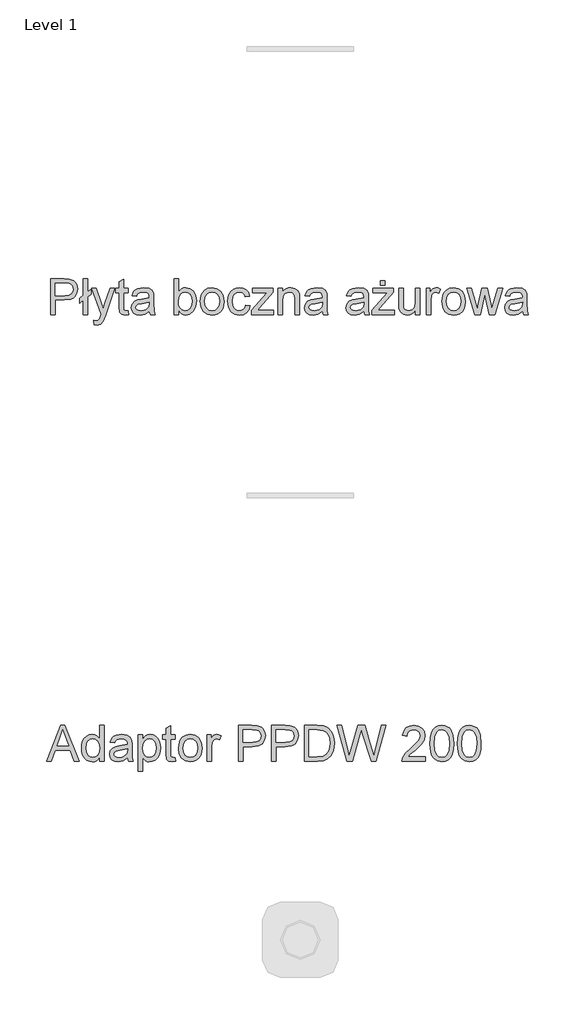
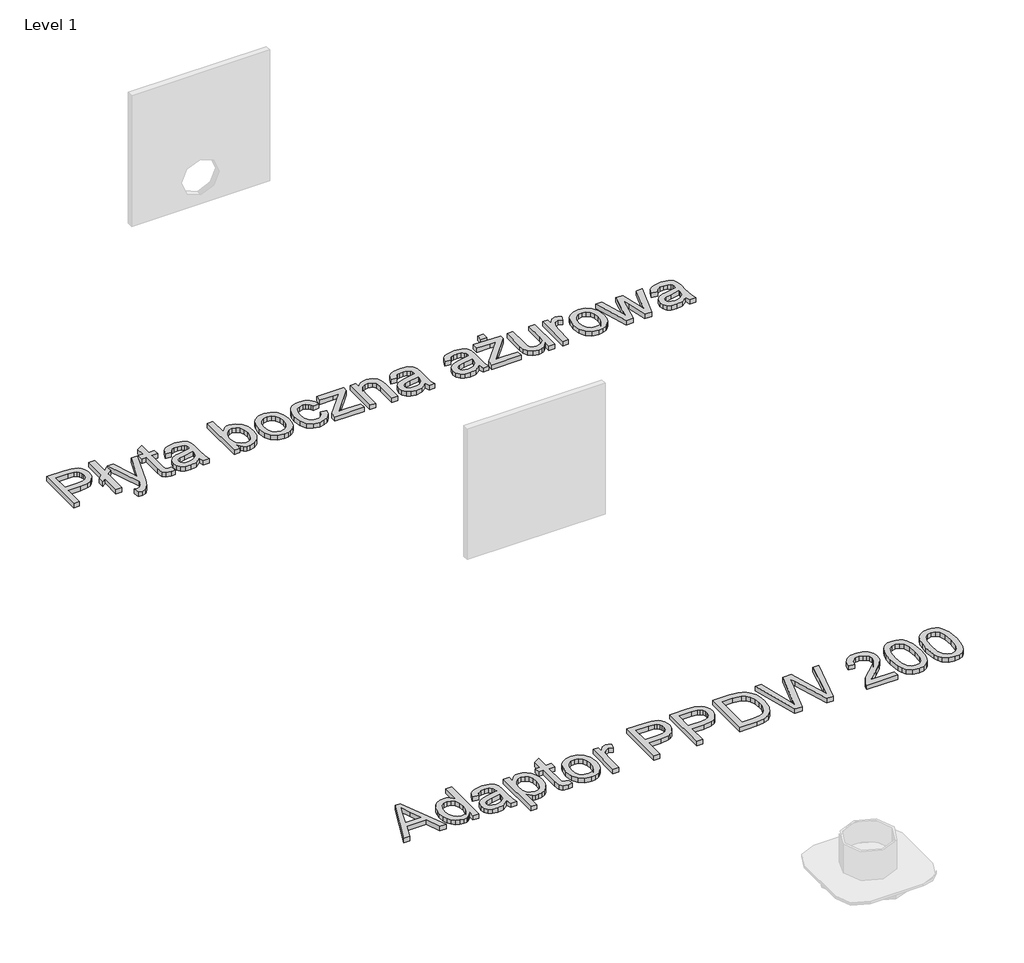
# One storey, part 3 of 5: 2 proxies.
"""IFC4 building model written with IfcOpenShell, lengths in millimetres."""

from ifc_helpers import new_model, si_unit, origin, origin_with_axes, place, context, project, spatial, polyline, outline, extrude, element, save

model = new_model("IFC4")

# Units and contexts
model_context = context("Model", 3, world=origin())
ifc_project = project(units=[si_unit("LENGTHUNIT", "METRE", prefix="MILLI")], contexts=[model_context])

# Site, building, storey
site = spatial("IfcSite", under=ifc_project)
building = spatial("IfcBuilding", under=site)
storey = spatial("IfcBuildingStorey", under=building, Name="Level 1", Elevation=0.0)

# Proxies
placement = place(None, origin())
element("IfcBuildingElementProxy", 1, Name="200mm Arial", ObjectType="200mm Arial", at=placement, inside=storey, context=model_context, shape_type="SweptSolid", body=[
    extrude(outline(polyline([(-12330.6923074, -9113.949573), (-12330.6923074, -8913.0369527), (-12256.2329915, -8913.0369527), (-12226.2138207, -8914.949939), (-12201.8109817, -8924.3431926), (-12192.9388943, -8932.6695885), (-12185.9920559, -8943.767362), (-12181.5038956, -8956.8578296), (-12180.0078421, -8971.1623079), (-12184.0484127, -8994.8416456), (-12196.1701245, -9014.5723833), (-12205.8776106, -9022.3408248), (-12218.8377867, -9027.8897115), (-12254.5162089, -9032.328821), (-12305.5782298, -9032.328821), (-12305.5782298, -9113.949573), (-12330.6923074, -9113.949573)]), holes=[polyline([(-12305.5782298, -9007.2147434), (-12253.0446809, -9007.2147434), (-12230.7755575, -9004.9093496), (-12216.0602777, -8997.9931681), (-12207.8565092, -8986.8953946), (-12205.1219197, -8972.0452247), (-12206.7344691, -8960.7635102), (-12211.5721173, -8951.2476292), (-12219.0339905, -8944.086193), (-12228.5192146, -8939.8678128), (-12253.6332921, -8938.1510302), (-12305.5782298, -8938.1510302), (-12305.5782298, -9007.2147434)])]), origin_with_axes(), (0.0, 0.0, 1.0), 20.0),
    extrude(outline(polyline([(-12148.6152452, -9034.5361129), (-12167.4508034, -9049.5947493), (-12167.4508034, -9021.341412), (-12148.6152452, -9006.2827757), (-12148.6152452, -8913.0369527), (-12123.5011677, -8913.0369527), (-12123.5011677, -8986.1718933), (-12104.6656095, -8971.113257), (-12104.6656095, -8999.3665942), (-12123.5011677, -9014.4252305), (-12123.5011677, -9113.949573), (-12148.6152452, -9113.949573), (-12148.6152452, -9034.5361129)])), origin_with_axes(), (0.0, 0.0, 1.0), 20.0),
    extrude(outline(polyline([(-12085.8300514, -9170.4562474), (-12088.9693111, -9146.2741376), (-12076.2160686, -9148.4814296), (-12064.2966919, -9145.7100519), (-12056.988103, -9137.98453), (-12050.1209724, -9119.4923283), (-12048.1589351, -9113.4100127), (-12101.5263498, -8966.4043674), (-12075.0388462, -8966.4043674), (-12046.736458, -9048.319425), (-12036.8772206, -9081.0854481), (-12027.0179831, -9052.1453978), (-11997.93078, -8966.4043674), (-11971.6394801, -8966.4043674), (-12022.9958066, -9117.4812401), (-12036.3376603, -9150.2472631), (-12050.9057873, -9167.9546498), (-12070.4771094, -9173.5955071), (-12085.8300514, -9170.4562474)])), origin_with_axes(), (0.0, 0.0, 1.0), 20.0),
    extrude(outline(polyline([(-11897.4744699, -9093.0048247), (-11894.3352102, -9114.6853369), (-11913.1217174, -9117.0888326), (-11934.1645675, -9112.9195034), (-11944.6614671, -9101.9811454), (-11947.7026249, -9073.4825535), (-11947.7026249, -8991.518445), (-11966.5381831, -8991.518445), (-11966.5381831, -8966.4043674), (-11947.7026249, -8966.4043674), (-11947.7026249, -8930.5481356), (-11922.5885474, -8915.7838049), (-11922.5885474, -8966.4043674), (-11897.4744699, -8966.4043674), (-11897.4744699, -8991.518445), (-11922.5885474, -8991.518445), (-11922.5885474, -9072.7467895), (-11921.2641722, -9085.6962357), (-11916.9722156, -9090.2824979), (-11908.4128278, -9091.9747551), (-11897.4744699, -9093.0048247)])), origin_with_axes(), (0.0, 0.0, 1.0), 20.0),
    extrude(outline(polyline([(-11778.1826015, -9095.1140148), (-11802.5363896, -9112.1346884), (-11829.4408262, -9117.0888326), (-11850.428494, -9114.1089885), (-11865.9101947, -9105.169456), (-11875.4567324, -9091.5946104), (-11878.6389117, -9074.7088268), (-11873.8319203, -9054.8431991), (-11861.2013051, -9040.4222249), (-11843.6165458, -9032.1816682), (-11821.8869826, -9028.4047463), (-11778.3297543, -9019.7717822), (-11778.1826015, -9014.1799759), (-11779.9116469, -9002.9718377), (-11785.0987831, -8995.6387233), (-11796.6993286, -8990.1940698), (-11812.861611, -8988.3791853), (-11827.8221454, -8989.5870645), (-11838.2699941, -8993.2107021), (-11845.3946421, -8999.9122858), (-11850.3855745, -9010.3540031), (-11875.499652, -9007.2147434), (-11864.6348704, -8982.6892771), (-11855.3765069, -8974.4364576), (-11842.7581544, -8968.3173538), (-11809.6242494, -8963.2651077), (-11779.1881457, -8967.7287426), (-11761.9957938, -8978.9368807), (-11754.2947973, -8995.9820798), (-11753.068524, -9017.9568977), (-11753.068524, -9049.2023418), (-11751.7931998, -9092.8331464), (-11746.7900046, -9113.949573), (-11771.9040822, -9113.949573), (-11778.1826015, -9095.1140148)]), holes=[polyline([(-11778.1826015, -9044.8858597), (-11818.698672, -9052.5868562), (-11840.3056078, -9056.6580836), (-11850.0912689, -9063.2799595), (-11853.5248342, -9072.9429932), (-11851.6547674, -9080.4109977), (-11846.0445669, -9086.5301016), (-11836.8168602, -9090.6135917), (-11824.0942745, -9091.9747551), (-11810.6052681, -9090.4725703), (-11798.6858914, -9085.9660159), (-11782.3028799, -9071.4224143), (-11778.3297543, -9051.998245), (-11778.1826015, -9044.8858597)])]), origin_with_axes(), (0.0, 0.0, 1.0), 20.0),
    extrude(outline(polyline([(-11614.9410976, -9113.949573), (-11640.0551751, -9113.949573), (-11640.0551751, -8913.0369527), (-11614.9410976, -8913.0369527), (-11614.9410976, -8987.5453194), (-11597.3563382, -8969.3351606), (-11586.9636718, -8964.782621), (-11575.5041477, -8963.2651077), (-11550.3410192, -8968.7342867), (-11530.818748, -8984.1117541), (-11518.8257949, -9008.0240838), (-11514.4847874, -9037.9696782), (-11518.9790791, -9071.4959907), (-11532.4619542, -9096.43839), (-11552.2478742, -9111.926222), (-11575.6513005, -9117.0888326), (-11587.4879037, -9115.4241666), (-11597.9817376, -9110.4301685), (-11607.1328022, -9102.1068384), (-11614.9410976, -9090.4541762), (-11614.9410976, -9113.949573)]), holes=[polyline([(-11614.9410976, -9039.1469006), (-11613.2243149, -9060.0916489), (-11608.073967, -9074.2673684), (-11594.9160543, -9087.5479084), (-11577.8095415, -9091.9747551), (-11563.3149909, -9088.7128681), (-11550.9296304, -9078.927207), (-11542.4315563, -9062.6790856), (-11539.5988649, -9040.0298174), (-11542.3150603, -9017.0494554), (-11550.4636465, -9000.985275), (-11562.4627309, -8991.5307077), (-11576.730421, -8988.3791853), (-11591.2249716, -8991.6410723), (-11603.6103321, -9001.4267334), (-11612.1084062, -9017.3805492), (-11614.9410976, -9039.1469006)])]), origin_with_axes(), (0.0, 0.0, 1.0), 20.0),
    extrude(outline(polyline([(-11492.5099696, -9040.1769702), (-11487.0775788, -9004.6027813), (-11480.2870903, -8990.7796153), (-11470.7804064, -8979.5990683), (-11450.6449985, -8967.3485979), (-11426.5364651, -8963.2651077), (-11400.1531947, -8968.237646), (-11379.0796877, -8983.1552609), (-11365.2657188, -9006.8407301), (-11360.6610625, -9038.116831), (-11362.6966762, -9063.4884259), (-11368.8035173, -9082.8022307), (-11378.8037762, -9097.2661245), (-11392.5196433, -9108.0879865), (-11408.8106843, -9114.8386211), (-11426.5364651, -9117.0888326), (-11453.2385666, -9112.1346884), (-11474.2875481, -9097.2722558), (-11487.9543642, -9073.090146), (-11492.5099696, -9040.1769702)]), holes=[polyline([(-11467.395892, -9040.1279193), (-11464.4896243, -9062.8568952), (-11455.770821, -9079.0498343), (-11442.6496965, -9088.7435249), (-11426.5364651, -9091.9747551), (-11410.4968101, -9088.7251308), (-11397.4002111, -9078.9762579), (-11388.6814078, -9062.568721), (-11385.77514, -9039.3431043), (-11388.6998019, -9017.276316), (-11397.4737875, -9001.304106), (-11410.5887806, -8991.6104155), (-11426.5364651, -8988.3791853), (-11442.6496965, -8991.5981527), (-11455.770821, -9001.2550551), (-11464.4896243, -9017.4112061), (-11467.395892, -9040.1279193)])]), origin_with_axes(), (0.0, 0.0, 1.0), 20.0),
    extrude(outline(polyline([(-11238.2299345, -9060.5821582), (-11213.115857, -9063.7214179), (-11220.1178776, -9086.0579864), (-11233.2757903, -9102.9376386), (-11251.351059, -9113.5510341), (-11273.1051476, -9117.0888326), (-11299.8195119, -9112.1530825), (-11320.7090778, -9097.3458322), (-11334.1919529, -9073.3170066), (-11338.6862446, -9040.7165304), (-11336.7671269, -9018.3676992), (-11331.0097737, -8998.9987122), (-11321.3222145, -8983.357596), (-11307.6124788, -8972.1923775), (-11291.2110732, -8965.4969252), (-11273.4485042, -8963.2651077), (-11252.2278444, -8966.330791), (-11235.2623531, -8975.5278409), (-11223.0915904, -8990.365748), (-11216.2551166, -9010.3540031), (-11241.3691942, -9013.4932628), (-11245.9247996, -9002.5365107), (-11253.0187907, -8994.6822301), (-11262.2587601, -8989.9549465), (-11273.2523004, -8988.3791853), (-11289.4820278, -8991.4816568), (-11302.364029, -9000.7890712), (-11310.7701326, -9016.8042008), (-11313.5721671, -9040.0298174), (-11310.8314462, -9063.5681337), (-11302.6092836, -9079.6384455), (-11289.9602744, -9088.8906777), (-11273.9390135, -9091.9747551), (-11260.934385, -9090.049506), (-11250.2719385, -9084.2737587), (-11242.5157597, -9074.5003603), (-11238.2299345, -9060.5821582)])), origin_with_axes(), (0.0, 0.0, 1.0), 20.0),
    extrude(outline(polyline([(-11206.8373376, -9113.949573), (-11206.8373376, -9090.3070234), (-11120.1643395, -8991.518445), (-11145.8179773, -8991.518445), (-11200.5588182, -8991.518445), (-11200.5588182, -8966.4043674), (-11084.4062096, -8966.4043674), (-11084.4062096, -8987.7415231), (-11161.2690211, -9075.3955399), (-11173.0412449, -9088.8354954), (-11144.0030928, -9088.8354954), (-11081.2669499, -9088.8354954), (-11081.2669499, -9113.949573), (-11206.8373376, -9113.949573)])), origin_with_axes(), (0.0, 0.0, 1.0), 20.0),
    extrude(outline(polyline([(-11056.1528723, -9113.949573), (-11056.1528723, -8966.4043674), (-11031.0387948, -8966.4043674), (-11031.0387948, -8987.0057592), (-11022.3138602, -8976.6192242), (-11011.8353547, -8969.2002706), (-10999.6032783, -8964.7488984), (-10985.6176311, -8963.2651077), (-10961.9015052, -8968.0475737), (-10945.7146974, -8980.6046124), (-10938.1853792, -8999.0722886), (-10936.861004, -9023.3525003), (-10936.861004, -9113.949573), (-10961.9750816, -9113.949573), (-10961.9750816, -9026.7370146), (-10964.8690866, -9004.5169421), (-10975.0962061, -8992.7692437), (-10992.3376089, -8988.3791853), (-11007.0467574, -8990.8439946), (-11019.585402, -8998.2384227), (-11028.1754466, -9012.5245069), (-11031.0387948, -9035.6642844), (-11031.0387948, -9113.949573), (-11056.1528723, -9113.949573)])), origin_with_axes(), (0.0, 0.0, 1.0), 20.0),
    extrude(outline(polyline([(-10808.1513567, -9095.1140148), (-10832.5051447, -9112.1346884), (-10859.4095813, -9117.0888326), (-10880.3972492, -9114.1089885), (-10895.8789498, -9105.169456), (-10905.4254876, -9091.5946104), (-10908.6076668, -9074.7088268), (-10903.8006754, -9054.8431991), (-10891.1700602, -9040.4222249), (-10873.5853009, -9032.1816682), (-10851.8557377, -9028.4047463), (-10808.2985095, -9019.7717822), (-10808.1513567, -9014.1799759), (-10809.880402, -9002.9718377), (-10815.0675382, -8995.6387233), (-10826.6680838, -8990.1940698), (-10842.8303661, -8988.3791853), (-10857.7909005, -8989.5870645), (-10868.2387492, -8993.2107021), (-10875.3633972, -8999.9122858), (-10880.3543296, -9010.3540031), (-10905.4684071, -9007.2147434), (-10894.6036255, -8982.6892771), (-10885.345262, -8974.4364576), (-10872.7269096, -8968.3173538), (-10839.5930045, -8963.2651077), (-10809.1569008, -8967.7287426), (-10791.9645489, -8978.9368807), (-10784.2635524, -8995.9820798), (-10783.0372791, -9017.9568977), (-10783.0372791, -9049.2023418), (-10781.7619549, -9092.8331464), (-10776.7587597, -9113.949573), (-10801.8728373, -9113.949573), (-10808.1513567, -9095.1140148)]), holes=[polyline([(-10808.1513567, -9044.8858597), (-10848.6674271, -9052.5868562), (-10870.2743629, -9056.6580836), (-10880.060024, -9063.2799595), (-10883.4935893, -9072.9429932), (-10881.6235225, -9080.4109977), (-10876.013322, -9086.5301016), (-10866.7856153, -9090.6135917), (-10854.0630297, -9091.9747551), (-10840.5740232, -9090.4725703), (-10828.6546465, -9085.9660159), (-10812.271635, -9071.4224143), (-10808.2985095, -9051.998245), (-10808.1513567, -9044.8858597)])]), origin_with_axes(), (0.0, 0.0, 1.0), 20.0),
    extrude(outline(polyline([(-10575.8461394, -9095.1140148), (-10600.1999275, -9112.1346884), (-10627.1043641, -9117.0888326), (-10648.0920319, -9114.1089885), (-10663.5737326, -9105.169456), (-10673.1202703, -9091.5946104), (-10676.3024496, -9074.7088268), (-10671.4954582, -9054.8431991), (-10658.864843, -9040.4222249), (-10641.2800837, -9032.1816682), (-10619.5505205, -9028.4047463), (-10575.9932922, -9019.7717822), (-10575.8461394, -9014.1799759), (-10577.5751848, -9002.9718377), (-10582.762321, -8995.6387233), (-10594.3628665, -8990.1940698), (-10610.5251489, -8988.3791853), (-10625.4856833, -8989.5870645), (-10635.933532, -8993.2107021), (-10643.05818, -8999.9122858), (-10648.0491124, -9010.3540031), (-10673.1631899, -9007.2147434), (-10662.2984083, -8982.6892771), (-10653.0400448, -8974.4364576), (-10640.4216923, -8968.3173538), (-10607.2877873, -8963.2651077), (-10576.8516836, -8967.7287426), (-10559.6593317, -8978.9368807), (-10551.9583352, -8995.9820798), (-10550.7320619, -9017.9568977), (-10550.7320619, -9049.2023418), (-10549.4567377, -9092.8331464), (-10544.4535425, -9113.949573), (-10569.5676201, -9113.949573), (-10575.8461394, -9095.1140148)]), holes=[polyline([(-10575.8461394, -9044.8858597), (-10616.3622098, -9052.5868562), (-10637.9691457, -9056.6580836), (-10647.7548068, -9063.2799595), (-10651.1883721, -9072.9429932), (-10649.3183052, -9080.4109977), (-10643.7081048, -9086.5301016), (-10634.4803981, -9090.6135917), (-10621.7578124, -9091.9747551), (-10608.268806, -9090.4725703), (-10596.3494293, -9085.9660159), (-10579.9664178, -9071.4224143), (-10575.9932922, -9051.998245), (-10575.8461394, -9044.8858597)])]), origin_with_axes(), (0.0, 0.0, 1.0), 20.0),
    extrude(outline(polyline([(-10531.8965038, -9113.949573), (-10531.8965038, -9090.3070234), (-10445.2235057, -8991.518445), (-10470.8771435, -8991.518445), (-10525.6179844, -8991.518445), (-10525.6179844, -8966.4043674), (-10409.4653758, -8966.4043674), (-10409.4653758, -8987.7415231), (-10486.3281873, -9075.3955399), (-10498.1004111, -9088.8354954), (-10469.062259, -9088.8354954), (-10406.3261161, -9088.8354954), (-10406.3261161, -9113.949573), (-10531.8965038, -9113.949573)])), origin_with_axes(), (0.0, 0.0, 1.0), 20.0),
    extrude(outline(polyline([(-10484.8076084, -8950.708069), (-10484.8076084, -8925.5939914), (-10459.6935308, -8925.5939914), (-10459.6935308, -8950.708069), (-10484.8076084, -8950.708069)])), origin_with_axes(), (0.0, 0.0, 1.0), 20.0),
    extrude(outline(polyline([(-10287.0342478, -9113.949573), (-10287.0342478, -9088.5902408), (-10296.120933, -9101.0583747), (-10306.7036718, -9109.9641847), (-10318.7824639, -9115.3076707), (-10332.3573096, -9117.0888326), (-10355.9753337, -9112.0856375), (-10372.2602433, -9099.5285987), (-10379.7405105, -9081.0363971), (-10381.2120385, -9057.6881532), (-10381.2120385, -8966.4043674), (-10356.097961, -8966.4043674), (-10356.097961, -9045.8668784), (-10354.5773821, -9071.4714652), (-10350.9169562, -9080.0124589), (-10344.6445682, -9086.5055761), (-10325.9316374, -9091.9747551), (-10304.9623637, -9086.3829488), (-10296.605311, -9079.779467), (-10291.1054752, -9071.1526342), (-10287.0342478, -9043.1690771), (-10287.0342478, -8966.4043674), (-10261.9201702, -8966.4043674), (-10261.9201702, -9113.949573), (-10287.0342478, -9113.949573)])), origin_with_axes(), (0.0, 0.0, 1.0), 20.0),
    extrude(outline(polyline([(-10227.3883136, -9113.949573), (-10227.3883136, -8966.4043674), (-10205.4134958, -8966.4043674), (-10205.4134958, -8988.2320325), (-10189.8152992, -8968.1211501), (-10174.1190007, -8963.2651077), (-10161.6110129, -8965.2026196), (-10148.9068213, -8971.0151551), (-10157.2945308, -8993.5295332), (-10174.9528666, -8988.3791853), (-10189.1531116, -8993.3333295), (-10198.2030087, -9007.0675906), (-10202.2742361, -9036.4000484), (-10202.2742361, -9113.949573), (-10227.3883136, -9113.949573)])), origin_with_axes(), (0.0, 0.0, 1.0), 20.0),
    extrude(outline(polyline([(-10139.4890422, -9040.1769702), (-10134.0566514, -9004.6027813), (-10127.2661629, -8990.7796153), (-10117.7594791, -8979.5990683), (-10097.6240712, -8967.3485979), (-10073.5155378, -8963.2651077), (-10047.1322673, -8968.237646), (-10026.0587604, -8983.1552609), (-10012.2447915, -9006.8407301), (-10007.6401352, -9038.116831), (-10009.6757489, -9063.4884259), (-10015.78259, -9082.8022307), (-10025.7828489, -9097.2661245), (-10039.4987159, -9108.0879865), (-10055.789757, -9114.8386211), (-10073.5155378, -9117.0888326), (-10100.2176392, -9112.1346884), (-10121.2666207, -9097.2722558), (-10134.9334369, -9073.090146), (-10139.4890422, -9040.1769702)]), holes=[polyline([(-10114.3749647, -9040.1279193), (-10111.4686969, -9062.8568952), (-10102.7498936, -9079.0498343), (-10089.6287692, -9088.7435249), (-10073.5155378, -9091.9747551), (-10057.4758828, -9088.7251308), (-10044.3792837, -9078.9762579), (-10035.6604805, -9062.568721), (-10032.7542127, -9039.3431043), (-10035.6788746, -9017.276316), (-10044.4528601, -9001.304106), (-10057.5678533, -8991.6104155), (-10073.5155378, -8988.3791853), (-10089.6287692, -8991.5981527), (-10102.7498936, -9001.2550551), (-10111.4686969, -9017.4112061), (-10114.3749647, -9040.1279193)])]), origin_with_axes(), (0.0, 0.0, 1.0), 20.0),
    extrude(outline(polyline([(-9954.9103825, -9113.949573), (-9999.7919859, -8966.4043674), (-9973.6968897, -8966.4043674), (-9948.2394557, -9052.4887543), (-9940.6365611, -9083.2436891), (-9934.4070927, -9053.6169257), (-9914.1490575, -8966.4043674), (-9884.2279885, -8966.4043674), (-9864.0680552, -9053.3716711), (-9858.5252998, -9080.2025313), (-9850.5790487, -9051.9001431), (-9825.0725637, -8966.4043674), (-9798.8793656, -8966.4043674), (-9844.1043256, -9113.949573), (-9874.4668529, -9113.949573), (-9893.7438695, -9027.4237277), (-9899.3356758, -9000.4457147), (-9924.2044987, -9113.949573), (-9954.9103825, -9113.949573)])), origin_with_axes(), (0.0, 0.0, 1.0), 20.0),
    extrude(outline(polyline([(-9687.4356466, -9095.1140148), (-9711.7894346, -9112.1346884), (-9738.6938712, -9117.0888326), (-9759.681539, -9114.1089885), (-9775.1632397, -9105.169456), (-9784.7097775, -9091.5946104), (-9787.8919567, -9074.7088268), (-9783.0849653, -9054.8431991), (-9770.4543501, -9040.4222249), (-9752.8695908, -9032.1816682), (-9731.1400276, -9028.4047463), (-9687.5827994, -9019.7717822), (-9687.4356466, -9014.1799759), (-9689.1646919, -9002.9718377), (-9694.3518281, -8995.6387233), (-9705.9523736, -8990.1940698), (-9722.114656, -8988.3791853), (-9737.0751904, -8989.5870645), (-9747.5230391, -8993.2107021), (-9754.6476871, -8999.9122858), (-9759.6386195, -9010.3540031), (-9784.752697, -9007.2147434), (-9773.8879154, -8982.6892771), (-9764.6295519, -8974.4364576), (-9752.0111994, -8968.3173538), (-9718.8772944, -8963.2651077), (-9688.4411907, -8967.7287426), (-9671.2488388, -8978.9368807), (-9663.5478423, -8995.9820798), (-9662.321569, -9017.9568977), (-9662.321569, -9049.2023418), (-9661.0462448, -9092.8331464), (-9656.0430496, -9113.949573), (-9681.1571272, -9113.949573), (-9687.4356466, -9095.1140148)]), holes=[polyline([(-9687.4356466, -9044.8858597), (-9727.951717, -9052.5868562), (-9749.5586528, -9056.6580836), (-9759.3443139, -9063.2799595), (-9762.7778792, -9072.9429932), (-9760.9078124, -9080.4109977), (-9755.2976119, -9086.5301016), (-9746.0699052, -9090.6135917), (-9733.3473196, -9091.9747551), (-9719.8583131, -9090.4725703), (-9707.9389364, -9085.9660159), (-9691.5559249, -9071.4224143), (-9687.5827994, -9051.998245), (-9687.4356466, -9044.8858597)])]), origin_with_axes(), (0.0, 0.0, 1.0), 20.0),
])
element("IfcBuildingElementProxy", 2, Name="200mm Arial", ObjectType="200mm Arial", at=placement, inside=storey, context=model_context, shape_type="SweptSolid", body=[
    extrude(outline(polyline([(-12354.0896023, -11613.949573), (-12273.8913273, -11413.0369527), (-12252.5051207, -11413.0369527), (-12172.3068457, -11613.949573), (-12198.8434003, -11613.949573), (-12221.8482877, -11551.1643791), (-12304.5972112, -11551.1643791), (-12327.5530477, -11613.949573), (-12354.0896023, -11613.949573)]), holes=[polyline([(-12295.3756358, -11526.0503016), (-12231.0208121, -11526.0503016), (-12249.1206063, -11476.6560124), (-12263.198224, -11438.1510302), (-12275.7062118, -11472.3395303), (-12295.3756358, -11526.0503016)])]), origin_with_axes(), (0.0, 0.0, 1.0), 20.0),
    extrude(outline(polyline([(-12057.5767142, -11613.949573), (-12057.5767142, -11590.2579725), (-12065.0907039, -11601.9964738), (-12074.1927176, -11610.3811176), (-12084.8827552, -11615.4119039), (-12097.1608168, -11617.0888326), (-12113.3966756, -11614.6608115), (-12128.2591082, -11607.376748), (-12140.8406724, -11595.7455456), (-12150.233926, -11580.2761077), (-12156.0832497, -11561.5938337), (-12158.0330243, -11540.324123), (-12156.2365339, -11519.3180611), (-12150.8470627, -11500.3476128), (-12141.870742, -11484.4918989), (-12129.3137032, -11472.8300396), (-12114.1263082, -11465.6563407), (-12097.2589187, -11463.2651077), (-12084.9716601, -11464.975759), (-12074.1068785, -11470.1077128), (-12057.5767142, -11487.8886759), (-12057.5767142, -11413.0369527), (-12032.4626366, -11413.0369527), (-12032.4626366, -11613.949573), (-12057.5767142, -11613.949573)]), holes=[polyline([(-12132.9189468, -11540.2260211), (-12130.0862554, -11562.9427343), (-12121.5881813, -11579.0988853), (-12109.239609, -11588.7557877), (-12094.855423, -11591.9747551), (-12080.4773684, -11588.9029404), (-12068.4414957, -11579.6874965), (-12060.2929095, -11564.1567449), (-12057.5767142, -11542.1390075), (-12060.3419605, -11518.0672623), (-12068.6376995, -11501.3776824), (-12080.9801404, -11491.6288096), (-12095.8854926, -11488.3791853), (-12110.4168314, -11491.5000509), (-12122.3239453, -11500.8626476), (-12130.2701964, -11516.9452222), (-12132.9189468, -11540.2260211)])]), origin_with_axes(), (0.0, 0.0, 1.0), 20.0),
    extrude(outline(polyline([(-11900.6137295, -11595.1140148), (-11924.9675176, -11612.1346884), (-11951.8719542, -11617.0888326), (-11972.859622, -11614.1089885), (-11988.3413227, -11605.169456), (-11997.8878604, -11591.5946104), (-12001.0700397, -11574.7088268), (-11996.2630483, -11554.8431991), (-11983.6324331, -11540.4222249), (-11966.0476738, -11532.1816682), (-11944.3181106, -11528.4047463), (-11900.7608823, -11519.7717822), (-11900.6137295, -11514.1799759), (-11902.3427749, -11502.9718377), (-11907.5299111, -11495.6387233), (-11919.1304566, -11490.1940698), (-11935.292739, -11488.3791853), (-11950.2532734, -11489.5870645), (-11960.7011221, -11493.2107021), (-11967.8257701, -11499.9122858), (-11972.8167025, -11510.3540031), (-11997.93078, -11507.2147434), (-11987.0659984, -11482.6892771), (-11977.8076349, -11474.4364576), (-11965.1892824, -11468.3173538), (-11932.0553774, -11463.2651077), (-11901.6192737, -11467.7287426), (-11884.4269218, -11478.9368807), (-11876.7259253, -11495.9820798), (-11875.499652, -11517.9568977), (-11875.499652, -11549.2023418), (-11874.2243278, -11592.8331464), (-11869.2211326, -11613.949573), (-11894.3352102, -11613.949573), (-11900.6137295, -11595.1140148)]), holes=[polyline([(-11900.6137295, -11544.8858597), (-11941.1297999, -11552.5868562), (-11962.7367358, -11556.6580836), (-11972.5223969, -11563.2799595), (-11975.9559622, -11572.9429932), (-11974.0858953, -11580.4109977), (-11968.4756949, -11586.5301016), (-11959.2479882, -11590.6135917), (-11946.5254025, -11591.9747551), (-11933.0363961, -11590.4725703), (-11921.1170194, -11585.9660159), (-11904.7340079, -11571.4224143), (-11900.7608823, -11551.998245), (-11900.6137295, -11544.8858597)])]), origin_with_axes(), (0.0, 0.0, 1.0), 20.0),
    extrude(outline(polyline([(-11840.9677954, -11670.4562474), (-11840.9677954, -11466.4043674), (-11815.8537179, -11466.4043674), (-11815.8537179, -11491.0279356), (-11798.4896877, -11470.2058147), (-11787.7965844, -11465.0002845), (-11775.0433419, -11463.2651077), (-11758.0594564, -11465.6931289), (-11743.2092865, -11472.9771924), (-11731.1182316, -11484.6758398), (-11722.4116911, -11500.3476128), (-11717.1509785, -11518.8520772), (-11715.3974077, -11539.0487987), (-11717.3778391, -11560.5269759), (-11723.3191333, -11579.7365474), (-11733.031218, -11595.702626), (-11746.3240208, -11607.4503244), (-11761.8057214, -11614.6792056), (-11778.0844997, -11617.0888326), (-11789.629863, -11615.4762832), (-11799.9366902, -11610.638635), (-11815.8537179, -11594.3291999), (-11815.8537179, -11670.4562474), (-11840.9677954, -11670.4562474)]), holes=[polyline([(-11815.8537179, -11541.3541926), (-11813.1375225, -11563.8685707), (-11804.9889363, -11579.6139201), (-11792.9653264, -11588.8845463), (-11778.6240599, -11591.9747551), (-11764.0498016, -11588.7741818), (-11751.7196234, -11579.1724617), (-11743.3135198, -11562.8507638), (-11740.5114852, -11539.4902571), (-11743.2460747, -11517.0985064), (-11751.4498432, -11501.1324278), (-11763.455059, -11491.5674959), (-11777.5939904, -11488.3791853), (-11791.788104, -11491.769831), (-11804.2531723, -11501.9417682), (-11812.9535815, -11518.5761657), (-11815.8537179, -11541.3541926)])]), origin_with_axes(), (0.0, 0.0, 1.0), 20.0),
    extrude(outline(polyline([(-11633.7766557, -11593.0048247), (-11630.637396, -11614.6853369), (-11649.4239032, -11617.0888326), (-11670.4667534, -11612.9195034), (-11680.963653, -11601.9811454), (-11684.0048108, -11573.4825535), (-11684.0048108, -11491.518445), (-11702.8403689, -11491.518445), (-11702.8403689, -11466.4043674), (-11684.0048108, -11466.4043674), (-11684.0048108, -11430.5481356), (-11658.8907332, -11415.7838049), (-11658.8907332, -11466.4043674), (-11633.7766557, -11466.4043674), (-11633.7766557, -11491.518445), (-11658.8907332, -11491.518445), (-11658.8907332, -11572.7467895), (-11657.5663581, -11585.6962357), (-11653.2744015, -11590.2824979), (-11644.7150137, -11591.9747551), (-11633.7766557, -11593.0048247)])), origin_with_axes(), (0.0, 0.0, 1.0), 20.0),
    extrude(outline(polyline([(-11614.9410976, -11540.1769702), (-11609.5087068, -11504.6027813), (-11602.7182183, -11490.7796153), (-11593.2115344, -11479.5990683), (-11573.0761265, -11467.3485979), (-11548.9675931, -11463.2651077), (-11522.5843227, -11468.237646), (-11501.5108157, -11483.1552609), (-11487.6968468, -11506.8407301), (-11483.0921905, -11538.116831), (-11485.1278042, -11563.4884259), (-11491.2346453, -11582.8022307), (-11501.2349042, -11597.2661245), (-11514.9507713, -11608.0879865), (-11531.2418123, -11614.8386211), (-11548.9675931, -11617.0888326), (-11575.6696946, -11612.1346884), (-11596.7186761, -11597.2722558), (-11610.3854922, -11573.090146), (-11614.9410976, -11540.1769702)]), holes=[polyline([(-11589.82702, -11540.1279193), (-11586.9207523, -11562.8568952), (-11578.201949, -11579.0498343), (-11565.0808245, -11588.7435249), (-11548.9675931, -11591.9747551), (-11532.9279381, -11588.7251308), (-11519.8313391, -11578.9762579), (-11511.1125358, -11562.568721), (-11508.206268, -11539.3431043), (-11511.1309299, -11517.276316), (-11519.9049155, -11501.304106), (-11533.0199086, -11491.6104155), (-11548.9675931, -11488.3791853), (-11565.0808245, -11491.5981527), (-11578.201949, -11501.2550551), (-11586.9207523, -11517.4112061), (-11589.82702, -11540.1279193)])]), origin_with_axes(), (0.0, 0.0, 1.0), 20.0),
    extrude(outline(polyline([(-11454.8388533, -11613.949573), (-11454.8388533, -11466.4043674), (-11432.8640354, -11466.4043674), (-11432.8640354, -11488.2320325), (-11417.2658388, -11468.1211501), (-11401.5695404, -11463.2651077), (-11389.0615525, -11465.2026196), (-11376.3573609, -11471.0151551), (-11384.7450704, -11493.5295332), (-11402.4034062, -11488.3791853), (-11416.6036512, -11493.3333295), (-11425.6535483, -11507.0675906), (-11429.7247757, -11536.4000484), (-11429.7247757, -11613.949573), (-11454.8388533, -11613.949573)])), origin_with_axes(), (0.0, 0.0, 1.0), 20.0),
    extrude(outline(polyline([(-11279.0403105, -11613.949573), (-11279.0403105, -11413.0369527), (-11204.5809947, -11413.0369527), (-11174.5618239, -11414.949939), (-11150.1589848, -11424.3431926), (-11141.2868974, -11432.6695885), (-11134.3400591, -11443.767362), (-11129.8518987, -11456.8578296), (-11128.3558453, -11471.1623079), (-11132.3964158, -11494.8416456), (-11144.5181276, -11514.5723833), (-11154.2256137, -11522.3408248), (-11167.1857899, -11527.8897115), (-11202.864212, -11532.328821), (-11253.926233, -11532.328821), (-11253.926233, -11613.949573), (-11279.0403105, -11613.949573)]), holes=[polyline([(-11253.926233, -11507.2147434), (-11201.392684, -11507.2147434), (-11179.1235606, -11504.9093496), (-11164.4082808, -11497.9931681), (-11156.2045123, -11486.8953946), (-11153.4699228, -11472.0452247), (-11155.0824722, -11460.7635102), (-11159.9201205, -11451.2476292), (-11167.3819936, -11444.086193), (-11176.8672177, -11439.8678128), (-11201.9812952, -11438.1510302), (-11253.926233, -11438.1510302), (-11253.926233, -11507.2147434)])]), origin_with_axes(), (0.0, 0.0, 1.0), 20.0),
    extrude(outline(polyline([(-11093.8239887, -11613.949573), (-11093.8239887, -11413.0369527), (-11019.3646728, -11413.0369527), (-10989.345502, -11414.949939), (-10964.942663, -11424.3431926), (-10956.0705756, -11432.6695885), (-10949.1237372, -11443.767362), (-10944.6355769, -11456.8578296), (-10943.1395234, -11471.1623079), (-10947.180094, -11494.8416456), (-10959.3018058, -11514.5723833), (-10969.0092919, -11522.3408248), (-10981.969468, -11527.8897115), (-11017.6478902, -11532.328821), (-11068.7099111, -11532.328821), (-11068.7099111, -11613.949573), (-11093.8239887, -11613.949573)]), holes=[polyline([(-11068.7099111, -11507.2147434), (-11016.1763622, -11507.2147434), (-10993.9072388, -11504.9093496), (-10979.191959, -11497.9931681), (-10970.9881905, -11486.8953946), (-10968.253601, -11472.0452247), (-10969.8661504, -11460.7635102), (-10974.7037986, -11451.2476292), (-10982.1656718, -11444.086193), (-10991.6508959, -11439.8678128), (-11016.7649734, -11438.1510302), (-11068.7099111, -11438.1510302), (-11068.7099111, -11507.2147434)])]), origin_with_axes(), (0.0, 0.0, 1.0), 20.0),
    extrude(outline(polyline([(-10908.6076668, -11613.949573), (-10908.6076668, -11413.0369527), (-10839.2986989, -11413.0369527), (-10803.4424671, -11415.9309577), (-10787.4273376, -11421.5105013), (-10773.9138056, -11430.302881), (-10760.020129, -11445.606772), (-10750.1241033, -11464.6385338), (-10744.2012032, -11487.0302846), (-10742.2269031, -11512.4141423), (-10747.5734548, -11552.9547382), (-10761.3077159, -11582.2136195), (-10779.6527648, -11600.436041), (-10803.6631963, -11610.5160077), (-10835.9632355, -11613.949573), (-10908.6076668, -11613.949573)]), holes=[polyline([(-10883.4935893, -11588.8354954), (-10839.0534443, -11588.8354954), (-10806.7288796, -11585.2057264), (-10788.0895252, -11574.9540815), (-10779.3645905, -11564.0831685), (-10772.8101597, -11550.0116822), (-10768.7082754, -11532.6783089), (-10767.3409807, -11512.0217348), (-10770.0203879, -11484.6513144), (-10778.0586095, -11464.4423301), (-10789.9350665, -11450.5609162), (-10804.1291802, -11442.1732067), (-10839.7401573, -11438.1510302), (-10883.4935893, -11438.1510302), (-10883.4935893, -11588.8354954)])]), origin_with_axes(), (0.0, 0.0, 1.0), 20.0),
    extrude(outline(polyline([(-10671.7407129, -11613.949573), (-10726.5306047, -11413.0369527), (-10700.6317122, -11413.0369527), (-10668.8467078, -11545.0820635), (-10659.0365213, -11585.8433885), (-10648.5396217, -11549.790953), (-10608.7102643, -11413.0369527), (-10571.3825046, -11413.0369527), (-10542.4424543, -11512.1688876), (-10520.9090948, -11585.8433885), (-10511.3932139, -11546.2592858), (-10479.3139039, -11413.0369527), (-10453.4150114, -11413.0369527), (-10508.2539542, -11613.949573), (-10535.0848144, -11613.949573), (-10583.2528303, -11458.9486257), (-10589.9728081, -11437.3171643), (-10597.5266517, -11463.3632096), (-10641.4272365, -11613.949573), (-10671.7407129, -11613.949573)])), origin_with_axes(), (0.0, 0.0, 1.0), 20.0),
    extrude(outline(polyline([(-10230.5275733, -11588.8354954), (-10230.5275733, -11613.949573), (-10362.3764804, -11613.949573), (-10359.6786791, -11596.6345937), (-10344.423839, -11569.9754118), (-10312.9821912, -11540.8636832), (-10269.6211667, -11499.0232377), (-10261.4909746, -11484.6022634), (-10258.7809105, -11470.5736967), (-10261.3376904, -11457.9982638), (-10269.00803, -11447.5442838), (-10280.7986479, -11440.4993436), (-10295.7162629, -11438.1510302), (-10311.3819045, -11440.4441613), (-10323.5526672, -11447.3235546), (-10331.4069477, -11458.2496499), (-10334.1231431, -11472.6828868), (-10359.2372207, -11469.5436271), (-10353.1487737, -11445.2511527), (-10339.9847296, -11427.5069778), (-10320.4318016, -11416.6544589), (-10295.1767026, -11413.0369527), (-10269.7376626, -11417.0591291), (-10250.2215228, -11429.1256586), (-10237.8055054, -11447.1518763), (-10233.666833, -11469.0531178), (-10238.1304679, -11492.8673456), (-10252.968375, -11517.4909138), (-10288.9472341, -11551.9001431), (-10317.8382335, -11576.0577275), (-10329.1689989, -11588.8354954), (-10230.5275733, -11588.8354954)])), origin_with_axes(), (0.0, 0.0, 1.0), 20.0),
    extrude(outline(polyline([(-10205.4134958, -11515.1119436), (-10203.5679544, -11482.9529258), (-10198.0313304, -11457.3054194), (-10188.858806, -11437.7770168), (-10176.1055635, -11423.9753106), (-10159.6796324, -11415.7715422), (-10139.4890422, -11413.0369527), (-10124.013473, -11414.6556334), (-10110.1565845, -11419.5116758), (-10098.5683016, -11427.4150073), (-10089.8985493, -11438.1755557), (-10078.1263254, -11467.9004209), (-10073.5645887, -11515.1119436), (-10075.3917359, -11547.0870203), (-10080.8731777, -11572.6732131), (-10089.9905198, -11592.2200098), (-10102.7253682, -11606.0768983), (-10119.1880875, -11614.335849), (-10139.4890422, -11617.0888326), (-10165.5841384, -11612.3063667), (-10185.4007152, -11597.9589689), (-10194.1563067, -11582.8298218), (-10200.4103006, -11563.9789353), (-10205.4134958, -11515.1119436)]), holes=[polyline([(-10180.2994182, -11515.0628927), (-10177.3563623, -11554.5672876), (-10168.5271944, -11577.4311536), (-10155.3815444, -11588.3388547), (-10139.4890422, -11591.9747551), (-10123.59654, -11588.326592), (-10110.4508901, -11577.3821026), (-10101.6217222, -11554.5059739), (-10098.6786662, -11515.0628927), (-10101.5236203, -11476.4475459), (-10110.0584826, -11453.4058703), (-10123.1796071, -11441.9647402), (-10139.7833478, -11438.1510302), (-10155.5041718, -11441.5110191), (-10168.1347869, -11451.5909857), (-10177.2582604, -11476.0674012), (-10180.2994182, -11515.0628927)])]), origin_with_axes(), (0.0, 0.0, 1.0), 20.0),
    extrude(outline(polyline([(-10051.5897709, -11515.1119436), (-10049.7442295, -11482.9529258), (-10044.2076055, -11457.3054194), (-10035.0350811, -11437.7770168), (-10022.2818386, -11423.9753106), (-10005.8559075, -11415.7715422), (-9985.6653173, -11413.0369527), (-9970.1897481, -11414.6556334), (-9956.3328596, -11419.5116758), (-9944.7445767, -11427.4150073), (-9936.0748244, -11438.1755557), (-9924.3026005, -11467.9004209), (-9919.7408638, -11515.1119436), (-9921.568011, -11547.0870203), (-9927.0494528, -11572.6732131), (-9936.1667949, -11592.2200098), (-9948.9016433, -11606.0768983), (-9965.3643625, -11614.335849), (-9985.6653173, -11617.0888326), (-10011.7604135, -11612.3063667), (-10031.5769903, -11597.9589689), (-10040.3325818, -11582.8298218), (-10046.5865757, -11563.9789353), (-10051.5897709, -11515.1119436)]), holes=[polyline([(-10026.4756933, -11515.0628927), (-10023.5326374, -11554.5672876), (-10014.7034695, -11577.4311536), (-10001.5578195, -11588.3388547), (-9985.6653173, -11591.9747551), (-9969.7728151, -11588.326592), (-9956.6271652, -11577.3821026), (-9947.7979973, -11554.5059739), (-9944.8549413, -11515.0628927), (-9947.6998954, -11476.4475459), (-9956.2347577, -11453.4058703), (-9969.3558822, -11441.9647402), (-9985.9596229, -11438.1510302), (-10001.6804468, -11441.5110191), (-10014.311062, -11451.5909857), (-10023.4345355, -11476.0674012), (-10026.4756933, -11515.0628927)])]), origin_with_axes(), (0.0, 0.0, 1.0), 20.0),
])

save(model, "model.ifc")
